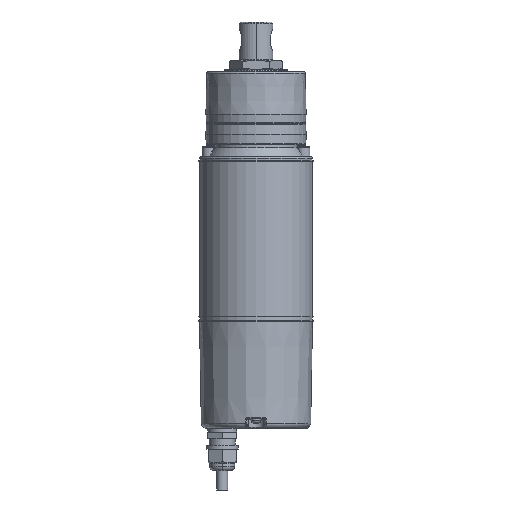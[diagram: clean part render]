
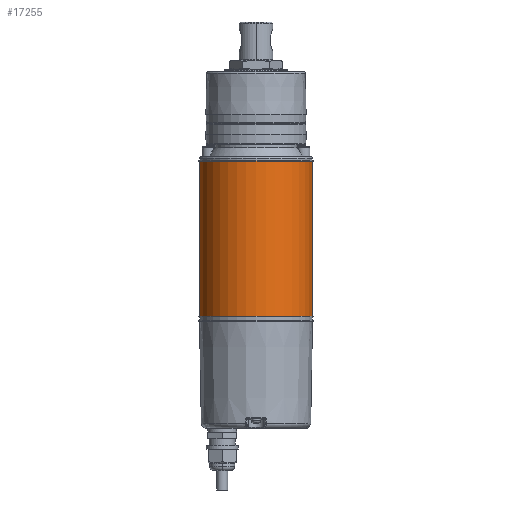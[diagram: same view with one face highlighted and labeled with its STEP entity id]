
A CAD part, front view. The second image highlights one B-rep face of the part: STEP entity #17255.
In plain terms, the highlighted cylindrical face has radius 43.5 mm (diameter 87 mm), a partial arc.
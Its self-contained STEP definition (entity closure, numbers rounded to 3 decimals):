
#1835 = LINE ( 'NONE', #16594, #4948 ) ;
#4948 = VECTOR ( 'NONE', #27835, 1000. ) ;
#5265 = ORIENTED_EDGE ( 'NONE', *, *, #22315, .F. ) ;
#5396 = VERTEX_POINT ( 'NONE', #18811 ) ;
#6719 = VERTEX_POINT ( 'NONE', #17691 ) ;
#6762 = VERTEX_POINT ( 'NONE', #13016 ) ;
#6860 = AXIS2_PLACEMENT_3D ( 'NONE', #36167, #36544, #33389 ) ;
#7231 = DIRECTION ( 'NONE',  ( 0., 0., 1. ) ) ;
#7780 = DIRECTION ( 'NONE',  ( 0., 0., 1. ) ) ;
#8691 = AXIS2_PLACEMENT_3D ( 'NONE', #12803, #7231, #32357 ) ;
#9594 = EDGE_LOOP ( 'NONE', ( #5265, #31568, #13209, #11374 ) ) ;
#10578 = CYLINDRICAL_SURFACE ( 'NONE', #34540, 43.5 ) ;
#11374 = ORIENTED_EDGE ( 'NONE', *, *, #31812, .F. ) ;
#12781 = CIRCLE ( 'NONE', #6860, 43.5 ) ;
#12803 = CARTESIAN_POINT ( 'NONE',  ( 0., -74.5, -28.6 ) ) ;
#13016 = CARTESIAN_POINT ( 'NONE',  ( -43.5, -74.5, -28.6 ) ) ;
#13209 = ORIENTED_EDGE ( 'NONE', *, *, #19114, .T. ) ;
#16594 = CARTESIAN_POINT ( 'NONE',  ( -43.5, -74.5, -18.3 ) ) ;
#17255 = ADVANCED_FACE ( 'NONE', ( #35882 ), #10578, .T. ) ;
#17691 = CARTESIAN_POINT ( 'NONE',  ( 43.5, -74.5, -148.1 ) ) ;
#18811 = CARTESIAN_POINT ( 'NONE',  ( -43.5, -74.5, -148.1 ) ) ;
#19047 = DIRECTION ( 'NONE',  ( 1., 0., 0. ) ) ;
#19114 = EDGE_CURVE ( 'NONE', #6719, #31879, #31162, .T. ) ;
#20428 = CARTESIAN_POINT ( 'NONE',  ( 43.5, -74.5, -18.3 ) ) ;
#22315 = EDGE_CURVE ( 'NONE', #5396, #6762, #1835, .T. ) ;
#27835 = DIRECTION ( 'NONE',  ( 0., 0., 1. ) ) ;
#29978 = EDGE_CURVE ( 'NONE', #5396, #6719, #12781, .T. ) ;
#31162 = LINE ( 'NONE', #20428, #34876 ) ;
#31568 = ORIENTED_EDGE ( 'NONE', *, *, #29978, .T. ) ;
#31812 = EDGE_CURVE ( 'NONE', #6762, #31879, #34039, .T. ) ;
#31879 = VERTEX_POINT ( 'NONE', #33252 ) ;
#32357 = DIRECTION ( 'NONE',  ( 1., 0., 0. ) ) ;
#33080 = CARTESIAN_POINT ( 'NONE',  ( 0., -74.5, -18.3 ) ) ;
#33252 = CARTESIAN_POINT ( 'NONE',  ( 43.5, -74.5, -28.6 ) ) ;
#33389 = DIRECTION ( 'NONE',  ( 1., 0., 0. ) ) ;
#33909 = DIRECTION ( 'NONE',  ( 0., 0., 1. ) ) ;
#34039 = CIRCLE ( 'NONE', #8691, 43.5 ) ;
#34540 = AXIS2_PLACEMENT_3D ( 'NONE', #33080, #7780, #19047 ) ;
#34876 = VECTOR ( 'NONE', #33909, 1000. ) ;
#35882 = FACE_OUTER_BOUND ( 'NONE', #9594, .T. ) ;
#36167 = CARTESIAN_POINT ( 'NONE',  ( 0., -74.5, -148.1 ) ) ;
#36544 = DIRECTION ( 'NONE',  ( 0., 0., 1. ) ) ;
